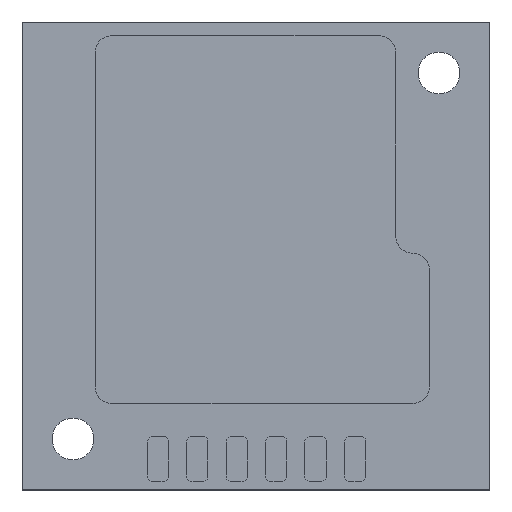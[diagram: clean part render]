
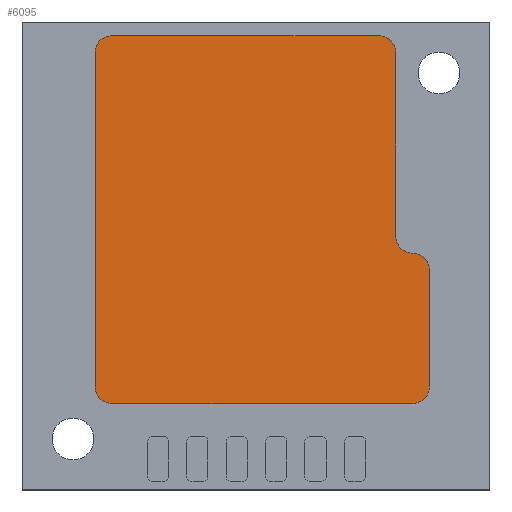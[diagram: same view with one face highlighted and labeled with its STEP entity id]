
A CAD part, top view. The second image highlights one B-rep face of the part: STEP entity #6095.
In plain terms, the highlighted planar face has unit normal (0, 0, 1).
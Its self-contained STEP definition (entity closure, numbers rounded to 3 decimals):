
#75 = CARTESIAN_POINT ( 'NONE',  ( -22.133, 25.667, 1.9 ) ) ;
#116 = CARTESIAN_POINT ( 'NONE',  ( -4.133, 24.667, 1.9 ) ) ;
#260 = DIRECTION ( 'NONE',  ( 0., 0., -1. ) ) ;
#539 = AXIS2_PLACEMENT_3D ( 'NONE', #7675, #260, #3438 ) ;
#683 = VERTEX_POINT ( 'NONE', #2367 ) ;
#761 = AXIS2_PLACEMENT_3D ( 'NONE', #7401, #1851, #4345 ) ;
#825 = CARTESIAN_POINT ( 'NONE',  ( -22.133, 4.667, 1.9 ) ) ;
#871 = EDGE_CURVE ( 'NONE', #6822, #2681, #6588, .T. ) ;
#873 = FACE_OUTER_BOUND ( 'NONE', #6970, .T. ) ;
#1554 = AXIS2_PLACEMENT_3D ( 'NONE', #5921, #5302, #6567 ) ;
#1563 = DIRECTION ( 'NONE',  ( -1., 0., 0. ) ) ;
#1591 = LINE ( 'NONE', #6533, #3245 ) ;
#1665 = ORIENTED_EDGE ( 'NONE', *, *, #7770, .T. ) ;
#1687 = VERTEX_POINT ( 'NONE', #5725 ) ;
#1689 = CARTESIAN_POINT ( 'NONE',  ( -21.133, 4.667, 1.9 ) ) ;
#1738 = EDGE_CURVE ( 'NONE', #1753, #683, #6727, .T. ) ;
#1753 = VERTEX_POINT ( 'NONE', #116 ) ;
#1816 = EDGE_CURVE ( 'NONE', #683, #1886, #3830, .T. ) ;
#1851 = DIRECTION ( 'NONE',  ( 0., 0., 1. ) ) ;
#1877 = EDGE_CURVE ( 'NONE', #2681, #3370, #1591, .T. ) ;
#1886 = VERTEX_POINT ( 'NONE', #3384 ) ;
#1890 = CARTESIAN_POINT ( 'NONE',  ( -2.133, 3.667, 1.9 ) ) ;
#2002 = VERTEX_POINT ( 'NONE', #2896 ) ;
#2201 = CARTESIAN_POINT ( 'NONE',  ( -3.133, 3.667, 1.9 ) ) ;
#2204 = EDGE_CURVE ( 'NONE', #3370, #4133, #7508, .T. ) ;
#2275 = ORIENTED_EDGE ( 'NONE', *, *, #1877, .T. ) ;
#2319 = DIRECTION ( 'NONE',  ( 0., -1., 0. ) ) ;
#2341 = CARTESIAN_POINT ( 'NONE',  ( -3.133, 13.667, 1.9 ) ) ;
#2367 = CARTESIAN_POINT ( 'NONE',  ( -5.133, 25.667, 1.9 ) ) ;
#2576 = DIRECTION ( 'NONE',  ( -1., 0., 0. ) ) ;
#2664 = AXIS2_PLACEMENT_3D ( 'NONE', #5883, #2810, #6534 ) ;
#2681 = VERTEX_POINT ( 'NONE', #4038 ) ;
#2810 = DIRECTION ( 'NONE',  ( 0., 0., 1. ) ) ;
#2866 = EDGE_CURVE ( 'NONE', #1886, #3630, #4501, .T. ) ;
#2882 = ORIENTED_EDGE ( 'NONE', *, *, #5100, .T. ) ;
#2896 = CARTESIAN_POINT ( 'NONE',  ( -21.133, 3.667, 1.9 ) ) ;
#3245 = VECTOR ( 'NONE', #3459, 1000. ) ;
#3370 = VERTEX_POINT ( 'NONE', #7557 ) ;
#3371 = VECTOR ( 'NONE', #2576, 1000. ) ;
#3384 = CARTESIAN_POINT ( 'NONE',  ( -21.133, 25.667, 1.9 ) ) ;
#3400 = AXIS2_PLACEMENT_3D ( 'NONE', #1689, #4172, #6631 ) ;
#3438 = DIRECTION ( 'NONE',  ( -1., 0., 0. ) ) ;
#3459 = DIRECTION ( 'NONE',  ( 0., 1., 0. ) ) ;
#3529 = CARTESIAN_POINT ( 'NONE',  ( -22.133, 3.667, 1.9 ) ) ;
#3625 = AXIS2_PLACEMENT_3D ( 'NONE', #4656, #7116, #1563 ) ;
#3630 = VERTEX_POINT ( 'NONE', #4386 ) ;
#3830 = LINE ( 'NONE', #75, #3371 ) ;
#4038 = CARTESIAN_POINT ( 'NONE',  ( -2.133, 4.667, 1.9 ) ) ;
#4133 = VERTEX_POINT ( 'NONE', #5766 ) ;
#4172 = DIRECTION ( 'NONE',  ( 0., 0., 1. ) ) ;
#4299 = CARTESIAN_POINT ( 'NONE',  ( -4.133, 25.667, 1.9 ) ) ;
#4317 = ORIENTED_EDGE ( 'NONE', *, *, #1816, .T. ) ;
#4330 = VECTOR ( 'NONE', #5569, 1000. ) ;
#4338 = DIRECTION ( 'NONE',  ( -1., 0., 0. ) ) ;
#4345 = DIRECTION ( 'NONE',  ( -1., 0., 0. ) ) ;
#4386 = CARTESIAN_POINT ( 'NONE',  ( -22.133, 24.667, 1.9 ) ) ;
#4432 = EDGE_CURVE ( 'NONE', #4133, #1687, #6419, .T. ) ;
#4501 = CIRCLE ( 'NONE', #2664, 1. ) ;
#4508 = AXIS2_PLACEMENT_3D ( 'NONE', #2341, #7348, #4338 ) ;
#4568 = ORIENTED_EDGE ( 'NONE', *, *, #871, .T. ) ;
#4656 = CARTESIAN_POINT ( 'NONE',  ( -3.133, 4.667, 1.9 ) ) ;
#4694 = ORIENTED_EDGE ( 'NONE', *, *, #2204, .T. ) ;
#4944 = ORIENTED_EDGE ( 'NONE', *, *, #4432, .T. ) ;
#5100 = EDGE_CURVE ( 'NONE', #3630, #5544, #6602, .T. ) ;
#5302 = DIRECTION ( 'NONE',  ( 0., 0., 1. ) ) ;
#5351 = ORIENTED_EDGE ( 'NONE', *, *, #6595, .T. ) ;
#5544 = VERTEX_POINT ( 'NONE', #825 ) ;
#5569 = DIRECTION ( 'NONE',  ( 0., 1., 0. ) ) ;
#5725 = CARTESIAN_POINT ( 'NONE',  ( -4.133, 13.667, 1.9 ) ) ;
#5766 = CARTESIAN_POINT ( 'NONE',  ( -3.133, 12.667, 1.9 ) ) ;
#5827 = PLANE ( 'NONE',  #539 ) ;
#5852 = CIRCLE ( 'NONE', #3400, 1. ) ;
#5883 = CARTESIAN_POINT ( 'NONE',  ( -21.133, 24.667, 1.9 ) ) ;
#5921 = CARTESIAN_POINT ( 'NONE',  ( -3.133, 11.667, 1.9 ) ) ;
#6095 = ADVANCED_FACE ( 'NONE', ( #873 ), #5827, .F. ) ;
#6182 = ORIENTED_EDGE ( 'NONE', *, *, #2866, .T. ) ;
#6419 = CIRCLE ( 'NONE', #4508, 1. ) ;
#6484 = EDGE_CURVE ( 'NONE', #5544, #2002, #5852, .T. ) ;
#6524 = ORIENTED_EDGE ( 'NONE', *, *, #1738, .T. ) ;
#6533 = CARTESIAN_POINT ( 'NONE',  ( -2.133, 12.667, 1.9 ) ) ;
#6534 = DIRECTION ( 'NONE',  ( -1., 0., 0. ) ) ;
#6567 = DIRECTION ( 'NONE',  ( -1., 0., 0. ) ) ;
#6588 = CIRCLE ( 'NONE', #3625, 1. ) ;
#6595 = EDGE_CURVE ( 'NONE', #1687, #1753, #7307, .T. ) ;
#6602 = LINE ( 'NONE', #3529, #6862 ) ;
#6631 = DIRECTION ( 'NONE',  ( -1., 0., 0. ) ) ;
#6727 = CIRCLE ( 'NONE', #761, 1. ) ;
#6822 = VERTEX_POINT ( 'NONE', #2201 ) ;
#6862 = VECTOR ( 'NONE', #2319, 1000. ) ;
#6875 = ORIENTED_EDGE ( 'NONE', *, *, #6484, .T. ) ;
#6970 = EDGE_LOOP ( 'NONE', ( #2275, #4694, #4944, #5351, #6524, #4317, #6182, #2882, #6875, #1665, #4568 ) ) ;
#7116 = DIRECTION ( 'NONE',  ( 0., 0., 1. ) ) ;
#7307 = LINE ( 'NONE', #4299, #4330 ) ;
#7348 = DIRECTION ( 'NONE',  ( 0., 0., -1. ) ) ;
#7401 = CARTESIAN_POINT ( 'NONE',  ( -5.133, 24.667, 1.9 ) ) ;
#7508 = CIRCLE ( 'NONE', #1554, 1. ) ;
#7557 = CARTESIAN_POINT ( 'NONE',  ( -2.133, 11.667, 1.9 ) ) ;
#7675 = CARTESIAN_POINT ( 'NONE',  ( 0., 0., 1.9 ) ) ;
#7770 = EDGE_CURVE ( 'NONE', #2002, #6822, #7921, .T. ) ;
#7876 = VECTOR ( 'NONE', #7957, 1000. ) ;
#7921 = LINE ( 'NONE', #1890, #7876 ) ;
#7957 = DIRECTION ( 'NONE',  ( 1., 0., 0. ) ) ;
